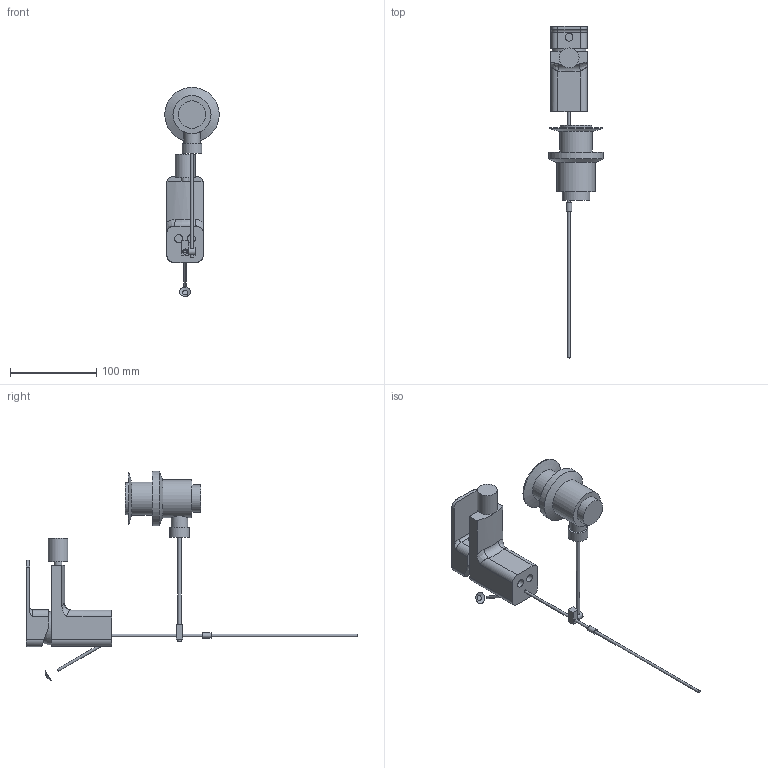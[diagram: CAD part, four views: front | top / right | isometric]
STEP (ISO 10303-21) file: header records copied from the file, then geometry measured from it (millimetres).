
FILE_DESCRIPTION(/* description */ ('LOFT Bateria bidetowa'),/* implementation_level */ '2;1');
FILE_NAME(/* name */ 'C:\Nextcloud\02_biblioteki_cad\Valvex\Projekt\PROJECTS\Eksport\ETAP 1\2454950\2454950.stp',/* time_stamp */ '2021-06-17T15:39:47+02:00',/* author */ ('Cadventure'),/* organization */ (''),/* preprocessor_version */ 'ST-DEVELOPER v18.1',/* originating_system */ 'Autodesk Inventor 2020',/* authorisation */ '');
FILE_SCHEMA (('AUTOMOTIVE_DESIGN { 1 0 10303 214 3 1 1 }'));
Length unit declared in the file: millimetre
Products named in the file (1): 2454950
Bounding box: 63 x 384 x 242.13 mm (x, y, z)
Volume: 375211.9 mm3; surface area: 65959.1 mm2
Topology: 5 solids, 5 shells, 91 faces, 222 edges, 155 vertices
Faces by surface type: plane 47, cylinder 33, cone 5, torus 3, bspline 2, sphere 1
Full cylindrical faces by diameter (mm): 3 x4, 4 x2, 6 x1, 8.5 x1, 9 x2, 9.525 x2, 19 x1, 23 x2, 31.75 x1, 37 x1, 38 x1, 44 x1, 61 x1, 63 x1
Entity records: 3035 total; most frequent: CARTESIAN_POINT 752, DIRECTION 497, ORIENTED_EDGE 442, EDGE_CURVE 221, AXIS2_PLACEMENT_3D 202, VERTEX_POINT 155, CIRCLE 110, EDGE_LOOP 106
